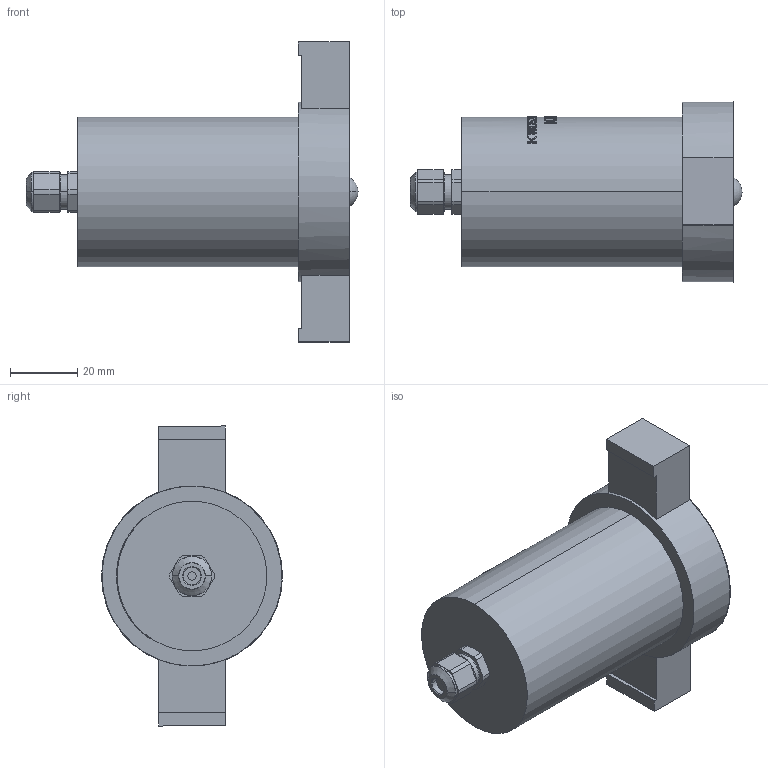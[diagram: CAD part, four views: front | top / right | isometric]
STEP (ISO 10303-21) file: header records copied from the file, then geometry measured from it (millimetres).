
FILE_DESCRIPTION((''),'2;1');
FILE_NAME('ASM0001_ASM','2025-12-25T11:09:06',('28740194'),(''),'CREO PARAMETRIC BY PTC INC, 2024063','CREO PARAMETRIC BY PTC INC, 2024063','');
FILE_SCHEMA(('CONFIG_CONTROL_DESIGN'));
Length unit declared in the file: millimetre
Products named in the file (3): 1572_08_035_2_5; KWD520; ASM0001_ASM
Assembly tree (2 placements, depth 2):
  ASM0001_ASM
    1572_08_035_2_5
    KWD520
Bounding box: 99.08 x 54 x 89.53 mm (x, y, z)
Volume: 150441.7 mm3; surface area: 21018.8 mm2
Topology: 2 solids, 4 shells, 558 faces, 1525 edges, 1007 vertices
Faces by surface type: bspline 422, cylinder 64, plane 43, cone 17, torus 10, sphere 2
Entity records: 23167 total; most frequent: CARTESIAN_POINT 11707, ORIENTED_EDGE 3042, EDGE_CURVE 1523, DIRECTION 1212, VERTEX_POINT 1007, B_SPLINE_CURVE_WITH_KNOTS 913, EDGE_LOOP 598, FACE_OUTER_BOUND 558
